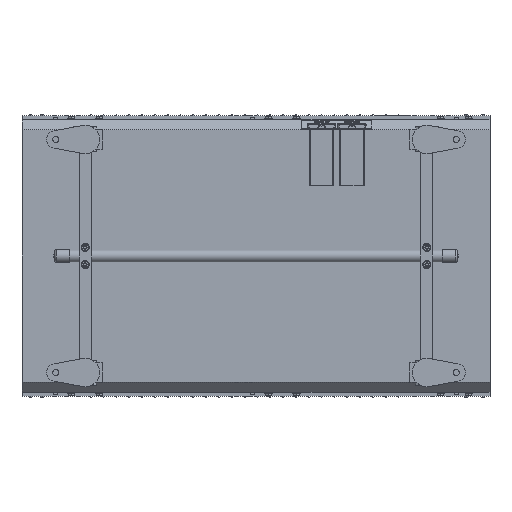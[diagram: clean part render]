
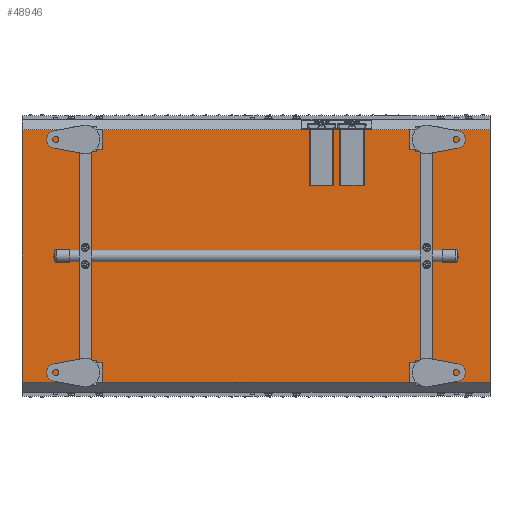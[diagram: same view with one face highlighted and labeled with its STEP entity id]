
A CAD part, front view. The second image highlights one B-rep face of the part: STEP entity #48946.
In plain terms, the highlighted planar face has unit normal (0, -1, 0).
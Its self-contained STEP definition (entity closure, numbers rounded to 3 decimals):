
#468 = EDGE_CURVE ( 'NONE', #55017, #54783, #12506, .T. ) ;
#4799 = ORIENTED_EDGE ( 'NONE', *, *, #468, .F. ) ;
#5063 = CARTESIAN_POINT ( 'NONE',  ( 1000., -215.213, -269.787 ) ) ;
#7629 = ORIENTED_EDGE ( 'NONE', *, *, #20599, .T. ) ;
#7996 = CARTESIAN_POINT ( 'NONE',  ( 1625.255, -215.213, 269.787 ) ) ;
#8685 = LINE ( 'NONE', #29498, #20666 ) ;
#11489 = VECTOR ( 'NONE', #25480, 1000. ) ;
#12506 = LINE ( 'NONE', #25938, #47010 ) ;
#14467 = EDGE_CURVE ( 'NONE', #38658, #54473, #19250, .T. ) ;
#15737 = EDGE_CURVE ( 'NONE', #55017, #38658, #49340, .T. ) ;
#19250 = LINE ( 'NONE', #7996, #11489 ) ;
#20599 = EDGE_CURVE ( 'NONE', #54473, #54783, #8685, .T. ) ;
#20666 = VECTOR ( 'NONE', #43078, 1000. ) ;
#22302 = ORIENTED_EDGE ( 'NONE', *, *, #15737, .T. ) ;
#23265 = EDGE_LOOP ( 'NONE', ( #4799, #22302, #55643, #7629 ) ) ;
#25480 = DIRECTION ( 'NONE',  ( -1., 0., 0. ) ) ;
#25938 = CARTESIAN_POINT ( 'NONE',  ( 1000., -215.213, -269.787 ) ) ;
#26737 = CARTESIAN_POINT ( 'NONE',  ( 1625.255, -215.213, 269.787 ) ) ;
#29498 = CARTESIAN_POINT ( 'NONE',  ( 0., -215.213, 269.787 ) ) ;
#31063 = DIRECTION ( 'NONE',  ( 0., 1., 0. ) ) ;
#34131 = CARTESIAN_POINT ( 'NONE',  ( 0., -215.213, -269.787 ) ) ;
#37413 = FACE_OUTER_BOUND ( 'NONE', #23265, .T. ) ;
#38658 = VERTEX_POINT ( 'NONE', #39053 ) ;
#39053 = CARTESIAN_POINT ( 'NONE',  ( 1000., -215.213, 269.787 ) ) ;
#39469 = DIRECTION ( 'NONE',  ( -1., 0., 0. ) ) ;
#40296 = DIRECTION ( 'NONE',  ( 0., 0., 1. ) ) ;
#43006 = VECTOR ( 'NONE', #48923, 1000. ) ;
#43078 = DIRECTION ( 'NONE',  ( 0., 0., -1. ) ) ;
#44055 = PLANE ( 'NONE',  #51603 ) ;
#47010 = VECTOR ( 'NONE', #39469, 1000. ) ;
#48923 = DIRECTION ( 'NONE',  ( 0., 0., 1. ) ) ;
#48946 = ADVANCED_FACE ( 'NONE', ( #37413 ), #44055, .F. ) ;
#49340 = LINE ( 'NONE', #56991, #43006 ) ;
#50101 = CARTESIAN_POINT ( 'NONE',  ( 0., -215.213, 269.787 ) ) ;
#51603 = AXIS2_PLACEMENT_3D ( 'NONE', #26737, #31063, #40296 ) ;
#54473 = VERTEX_POINT ( 'NONE', #50101 ) ;
#54783 = VERTEX_POINT ( 'NONE', #34131 ) ;
#55017 = VERTEX_POINT ( 'NONE', #5063 ) ;
#55643 = ORIENTED_EDGE ( 'NONE', *, *, #14467, .T. ) ;
#56991 = CARTESIAN_POINT ( 'NONE',  ( 1000., -215.213, 269.787 ) ) ;
